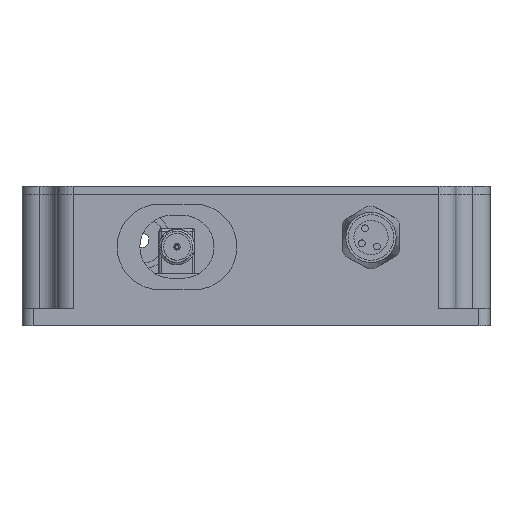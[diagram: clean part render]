
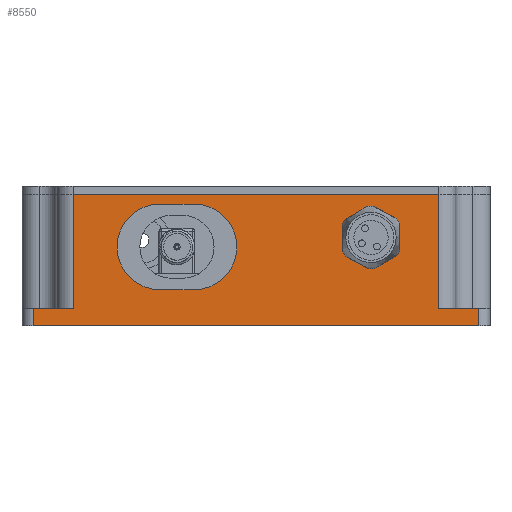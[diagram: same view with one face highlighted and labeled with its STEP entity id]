
A CAD part, front view. The second image highlights one B-rep face of the part: STEP entity #8550.
In plain terms, the highlighted planar face has unit normal (0, -1, 0).
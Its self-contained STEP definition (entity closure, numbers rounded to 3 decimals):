
#786 = ORIENTED_EDGE ( 'NONE', *, *, #24182, .T. ) ;
#1013 = VECTOR ( 'NONE', #15611, 1000. ) ;
#1018 = CARTESIAN_POINT ( 'NONE',  ( 73., -10., 23. ) ) ;
#1059 = DIRECTION ( 'NONE',  ( 1., 0., 0. ) ) ;
#1209 = DIRECTION ( 'NONE',  ( 0., 0., -1. ) ) ;
#1660 = CARTESIAN_POINT ( 'NONE',  ( 2., -10., 3. ) ) ;
#1914 = VERTEX_POINT ( 'NONE', #7470 ) ;
#2233 = VERTEX_POINT ( 'NONE', #16827 ) ;
#2419 = DIRECTION ( 'NONE',  ( 0., -1., 0. ) ) ;
#2599 = LINE ( 'NONE', #1660, #24084 ) ;
#2886 = LINE ( 'NONE', #4551, #18869 ) ;
#2974 = AXIS2_PLACEMENT_3D ( 'NONE', #5568, #20157, #7677 ) ;
#3027 = LINE ( 'NONE', #20385, #7922 ) ;
#4020 = VECTOR ( 'NONE', #22290, 1000. ) ;
#4379 = VERTEX_POINT ( 'NONE', #22547 ) ;
#4388 = ORIENTED_EDGE ( 'NONE', *, *, #5289, .T. ) ;
#4551 = CARTESIAN_POINT ( 'NONE',  ( 9., -10., 3. ) ) ;
#4587 = VECTOR ( 'NONE', #7672, 1000. ) ;
#4631 = VECTOR ( 'NONE', #1209, 1000. ) ;
#4911 = LINE ( 'NONE', #8208, #20259 ) ;
#5289 = EDGE_CURVE ( 'NONE', #12030, #10637, #3027, .T. ) ;
#5568 = CARTESIAN_POINT ( 'NONE',  ( 61.15, -10., 15.5 ) ) ;
#5715 = CARTESIAN_POINT ( 'NONE',  ( 6., -10., 23. ) ) ;
#6950 = AXIS2_PLACEMENT_3D ( 'NONE', #19469, #19549, #1059 ) ;
#7245 = VERTEX_POINT ( 'NONE', #24744 ) ;
#7278 = CARTESIAN_POINT ( 'NONE',  ( 2., -10., 3. ) ) ;
#7470 = CARTESIAN_POINT ( 'NONE',  ( 24.15, -10., 6.35 ) ) ;
#7672 = DIRECTION ( 'NONE',  ( -1., 0., 0. ) ) ;
#7677 = DIRECTION ( 'NONE',  ( 1., 0., 0. ) ) ;
#7836 = CARTESIAN_POINT ( 'NONE',  ( 104., -10., 3. ) ) ;
#7922 = VECTOR ( 'NONE', #14117, 1000. ) ;
#8075 = AXIS2_PLACEMENT_3D ( 'NONE', #14887, #2419, #16984 ) ;
#8208 = CARTESIAN_POINT ( 'NONE',  ( 24.15, -10., 21.35 ) ) ;
#8246 = LINE ( 'NONE', #5715, #4020 ) ;
#8523 = CARTESIAN_POINT ( 'NONE',  ( 73., -10., 3. ) ) ;
#8550 = ADVANCED_FACE ( 'NONE', ( #14362, #15031, #14218 ), #13557, .T. ) ;
#9107 = CARTESIAN_POINT ( 'NONE',  ( 65.4, -10., 15.5 ) ) ;
#9297 = CARTESIAN_POINT ( 'NONE',  ( 9., -10., 23. ) ) ;
#9603 = DIRECTION ( 'NONE',  ( 0., -1., 0. ) ) ;
#9674 = EDGE_CURVE ( 'NONE', #20679, #4379, #25565, .T. ) ;
#9723 = EDGE_CURVE ( 'NONE', #23802, #23802, #18719, .T. ) ;
#10050 = EDGE_LOOP ( 'NONE', ( #13816 ) ) ;
#10334 = DIRECTION ( 'NONE',  ( -1., 0., 0. ) ) ;
#10637 = VERTEX_POINT ( 'NONE', #8523 ) ;
#10652 = ORIENTED_EDGE ( 'NONE', *, *, #26175, .F. ) ;
#10788 = DIRECTION ( 'NONE',  ( 1., 0., 0. ) ) ;
#10947 = DIRECTION ( 'NONE',  ( 0., 0., -1. ) ) ;
#11860 = ORIENTED_EDGE ( 'NONE', *, *, #25584, .F. ) ;
#12030 = VERTEX_POINT ( 'NONE', #21364 ) ;
#12656 = ORIENTED_EDGE ( 'NONE', *, *, #20450, .T. ) ;
#13123 = EDGE_CURVE ( 'NONE', #4379, #24685, #4911, .T. ) ;
#13411 = CARTESIAN_POINT ( 'NONE',  ( 24.15, -10., 21.35 ) ) ;
#13557 = PLANE ( 'NONE',  #6950 ) ;
#13699 = CARTESIAN_POINT ( 'NONE',  ( 80., -10., 3. ) ) ;
#13816 = ORIENTED_EDGE ( 'NONE', *, *, #9723, .F. ) ;
#14117 = DIRECTION ( 'NONE',  ( -1., 0., 0. ) ) ;
#14218 = FACE_OUTER_BOUND ( 'NONE', #25887, .T. ) ;
#14362 = FACE_BOUND ( 'NONE', #20144, .T. ) ;
#14887 = CARTESIAN_POINT ( 'NONE',  ( 24.15, -10., 13.85 ) ) ;
#15031 = FACE_BOUND ( 'NONE', #10050, .T. ) ;
#15065 = CIRCLE ( 'NONE', #8075, 7.5 ) ;
#15594 = ORIENTED_EDGE ( 'NONE', *, *, #9674, .F. ) ;
#15599 = VERTEX_POINT ( 'NONE', #7278 ) ;
#15611 = DIRECTION ( 'NONE',  ( 0., 0., 1. ) ) ;
#15718 = LINE ( 'NONE', #13699, #4631 ) ;
#15984 = EDGE_CURVE ( 'NONE', #1914, #20679, #19285, .T. ) ;
#16158 = ORIENTED_EDGE ( 'NONE', *, *, #22524, .F. ) ;
#16827 = CARTESIAN_POINT ( 'NONE',  ( 73., -10., 23. ) ) ;
#16984 = DIRECTION ( 'NONE',  ( 1., 0., 0. ) ) ;
#17014 = LINE ( 'NONE', #1018, #1013 ) ;
#17945 = ORIENTED_EDGE ( 'NONE', *, *, #19676, .F. ) ;
#17994 = CARTESIAN_POINT ( 'NONE',  ( 80., -10., 0. ) ) ;
#18339 = DIRECTION ( 'NONE',  ( 0., 0., -1. ) ) ;
#18453 = EDGE_CURVE ( 'NONE', #7245, #15599, #25425, .T. ) ;
#18719 = CIRCLE ( 'NONE', #2974, 4.25 ) ;
#18864 = AXIS2_PLACEMENT_3D ( 'NONE', #22069, #9603, #24157 ) ;
#18869 = VECTOR ( 'NONE', #10947, 1000. ) ;
#18985 = CARTESIAN_POINT ( 'NONE',  ( 2., -10., 0. ) ) ;
#19276 = VERTEX_POINT ( 'NONE', #17994 ) ;
#19285 = LINE ( 'NONE', #23172, #25499 ) ;
#19469 = CARTESIAN_POINT ( 'NONE',  ( 104., -10., 3. ) ) ;
#19549 = DIRECTION ( 'NONE',  ( 0., -1., 0. ) ) ;
#19673 = VERTEX_POINT ( 'NONE', #18985 ) ;
#19676 = EDGE_CURVE ( 'NONE', #24685, #1914, #15065, .T. ) ;
#19868 = VECTOR ( 'NONE', #20324, 1000. ) ;
#20144 = EDGE_LOOP ( 'NONE', ( #17945, #23627, #15594, #26605 ) ) ;
#20157 = DIRECTION ( 'NONE',  ( 0., -1., 0. ) ) ;
#20248 = ORIENTED_EDGE ( 'NONE', *, *, #24621, .T. ) ;
#20259 = VECTOR ( 'NONE', #10334, 1000. ) ;
#20324 = DIRECTION ( 'NONE',  ( -1., 0., 0. ) ) ;
#20385 = CARTESIAN_POINT ( 'NONE',  ( 80., -10., 3. ) ) ;
#20450 = EDGE_CURVE ( 'NONE', #10637, #2233, #17014, .T. ) ;
#20679 = VERTEX_POINT ( 'NONE', #24798 ) ;
#21056 = VERTEX_POINT ( 'NONE', #9297 ) ;
#21364 = CARTESIAN_POINT ( 'NONE',  ( 80., -10., 3. ) ) ;
#22069 = CARTESIAN_POINT ( 'NONE',  ( 30.15, -10., 13.85 ) ) ;
#22290 = DIRECTION ( 'NONE',  ( 1., 0., 0. ) ) ;
#22524 = EDGE_CURVE ( 'NONE', #19276, #19673, #26106, .T. ) ;
#22547 = CARTESIAN_POINT ( 'NONE',  ( 30.15, -10., 21.35 ) ) ;
#23172 = CARTESIAN_POINT ( 'NONE',  ( 24.15, -10., 6.35 ) ) ;
#23365 = ORIENTED_EDGE ( 'NONE', *, *, #18453, .T. ) ;
#23627 = ORIENTED_EDGE ( 'NONE', *, *, #13123, .F. ) ;
#23802 = VERTEX_POINT ( 'NONE', #9107 ) ;
#24084 = VECTOR ( 'NONE', #18339, 1000. ) ;
#24157 = DIRECTION ( 'NONE',  ( 1., 0., 0. ) ) ;
#24182 = EDGE_CURVE ( 'NONE', #15599, #19673, #2599, .T. ) ;
#24346 = CARTESIAN_POINT ( 'NONE',  ( 104., -10., 0. ) ) ;
#24621 = EDGE_CURVE ( 'NONE', #21056, #7245, #2886, .T. ) ;
#24685 = VERTEX_POINT ( 'NONE', #13411 ) ;
#24744 = CARTESIAN_POINT ( 'NONE',  ( 9., -10., 3. ) ) ;
#24798 = CARTESIAN_POINT ( 'NONE',  ( 30.15, -10., 6.35 ) ) ;
#25425 = LINE ( 'NONE', #7836, #19868 ) ;
#25499 = VECTOR ( 'NONE', #10788, 1000. ) ;
#25565 = CIRCLE ( 'NONE', #18864, 7.5 ) ;
#25584 = EDGE_CURVE ( 'NONE', #21056, #2233, #8246, .T. ) ;
#25887 = EDGE_LOOP ( 'NONE', ( #11860, #20248, #23365, #786, #16158, #10652, #4388, #12656 ) ) ;
#26106 = LINE ( 'NONE', #24346, #4587 ) ;
#26175 = EDGE_CURVE ( 'NONE', #12030, #19276, #15718, .T. ) ;
#26605 = ORIENTED_EDGE ( 'NONE', *, *, #15984, .F. ) ;
